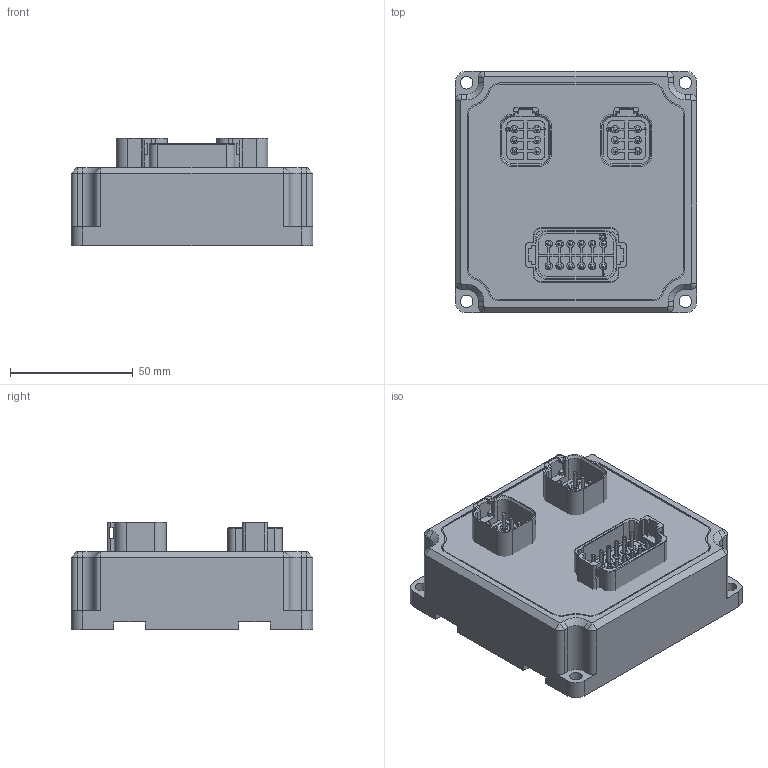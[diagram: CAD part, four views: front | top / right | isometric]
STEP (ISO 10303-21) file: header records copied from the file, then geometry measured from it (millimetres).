
FILE_DESCRIPTION(/* description */ (''),/* implementation_level */ '2;1');
FILE_NAME(/* name */ 'C:/Users/Operator/Desktop/AUIO-003/Universal Sensor Input v9.step',/* time_stamp */ '2019-05-15T11:15:03-04:00',/* author */ ('hughes.steven@outlook.com'),/* organization */ (''),/* preprocessor_version */ 'ST-DEVELOPER v18',/* originating_system */ 'Autodesk Translation Framework v8.2.0.1029',/* authorisation */ '');
FILE_SCHEMA (('AUTOMOTIVE_DESIGN { 1 0 10303 214 3 1 1 }'));
Products named in the file (4): Universal Sensor Input; DEUTSCH RECEPT DT15-6P; DEUTSCH RECEPT DT15-6P_1; DEUTSCH RECEPT DT15-12PA
Assembly tree (3 placements, depth 2):
  Universal Sensor Input
    DEUTSCH RECEPT DT15-6P
    DEUTSCH RECEPT DT15-6P_1
    DEUTSCH RECEPT DT15-12PA
Bounding box: 98.42 x 98.42 x 43.66 mm (x, y, z)
Volume: 123901 mm3; surface area: 95839.7 mm2
Topology: 37 solids, 37 shells, 1757 faces, 4670 edges, 3062 vertices
Faces by surface type: plane 866, cylinder 393, bspline 386, torus 70, cone 42
Full cylindrical faces by diameter (mm): 1.575 x36, 2.261 x12, 2.381 x4, 2.705 x6, 3.556 x12, 3.81 x2, 4.048 x2, 4.05 x2, 5.08 x4, 6.604 x12
Entity records: 77177 total; most frequent: CARTESIAN_POINT 34802, ORIENTED_EDGE 9296, DIRECTION 7784, EDGE_CURVE 4648, VERTEX_POINT 3062, LINE 2852, VECTOR 2852, AXIS2_PLACEMENT_3D 2466
